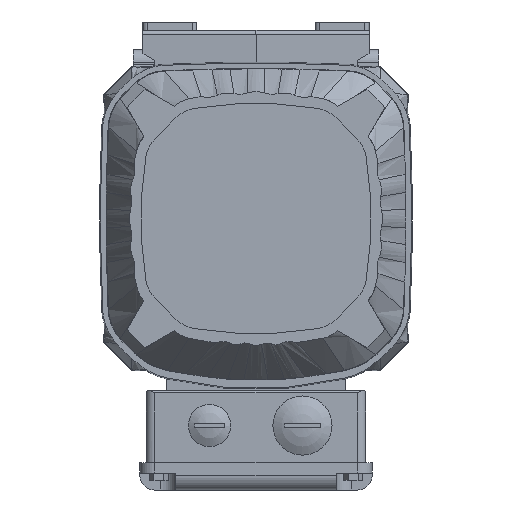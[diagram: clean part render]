
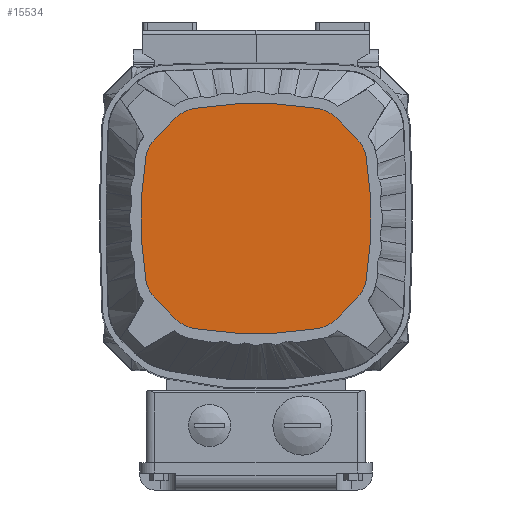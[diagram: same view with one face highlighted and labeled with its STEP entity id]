
A CAD part, left-side view. The second image highlights one B-rep face of the part: STEP entity #15534.
In plain terms, the highlighted planar face has unit normal (-1, 0, 0).
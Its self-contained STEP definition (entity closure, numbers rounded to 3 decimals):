
#777=PLANE('',#16538);
#1279=FACE_OUTER_BOUND('',#2145,.T.);
#2145=EDGE_LOOP('',(#11303,#11304,#11305,#11306,#11307,#11308,#11309,#11310,
#11311,#11312,#11313,#11314,#11315,#11316,#11317,#11318));
#3168=LINE('',#23909,#4592);
#3169=LINE('',#23917,#4593);
#3170=LINE('',#23925,#4594);
#3171=LINE('',#23932,#4595);
#4592=VECTOR('',#18638,1.);
#4593=VECTOR('',#18645,1.);
#4594=VECTOR('',#18652,1.);
#4595=VECTOR('',#18659,1.);
#5800=CIRCLE('',#16337,179.5);
#5886=CIRCLE('',#16539,16.);
#5887=CIRCLE('',#16540,16.);
#5888=CIRCLE('',#16541,16.);
#5889=CIRCLE('',#16542,179.5);
#5890=CIRCLE('',#16543,16.);
#5891=CIRCLE('',#16544,16.);
#5892=CIRCLE('',#16545,179.5);
#5893=CIRCLE('',#16546,16.);
#5894=CIRCLE('',#16547,16.);
#5895=CIRCLE('',#16548,179.5);
#5896=CIRCLE('',#16549,16.);
#6635=VERTEX_POINT('',#23129);
#6636=VERTEX_POINT('',#23130);
#6860=VERTEX_POINT('',#23904);
#6861=VERTEX_POINT('',#23906);
#6862=VERTEX_POINT('',#23908);
#6863=VERTEX_POINT('',#23910);
#6864=VERTEX_POINT('',#23912);
#6865=VERTEX_POINT('',#23914);
#6866=VERTEX_POINT('',#23916);
#6867=VERTEX_POINT('',#23918);
#6868=VERTEX_POINT('',#23920);
#6869=VERTEX_POINT('',#23922);
#6870=VERTEX_POINT('',#23924);
#6871=VERTEX_POINT('',#23926);
#6872=VERTEX_POINT('',#23928);
#6873=VERTEX_POINT('',#23930);
#8249=EDGE_CURVE('',#6635,#6636,#5800,.T.);
#8588=EDGE_CURVE('',#6860,#6635,#5886,.T.);
#8589=EDGE_CURVE('',#6636,#6861,#5887,.T.);
#8590=EDGE_CURVE('',#6861,#6862,#3168,.T.);
#8591=EDGE_CURVE('',#6862,#6863,#5888,.T.);
#8592=EDGE_CURVE('',#6863,#6864,#5889,.T.);
#8593=EDGE_CURVE('',#6864,#6865,#5890,.T.);
#8594=EDGE_CURVE('',#6865,#6866,#3169,.T.);
#8595=EDGE_CURVE('',#6866,#6867,#5891,.T.);
#8596=EDGE_CURVE('',#6867,#6868,#5892,.T.);
#8597=EDGE_CURVE('',#6868,#6869,#5893,.T.);
#8598=EDGE_CURVE('',#6869,#6870,#3170,.T.);
#8599=EDGE_CURVE('',#6870,#6871,#5894,.T.);
#8600=EDGE_CURVE('',#6871,#6872,#5895,.T.);
#8601=EDGE_CURVE('',#6872,#6873,#5896,.T.);
#8602=EDGE_CURVE('',#6873,#6860,#3171,.T.);
#11303=ORIENTED_EDGE('',*,*,#8588,.T.);
#11304=ORIENTED_EDGE('',*,*,#8249,.T.);
#11305=ORIENTED_EDGE('',*,*,#8589,.T.);
#11306=ORIENTED_EDGE('',*,*,#8590,.T.);
#11307=ORIENTED_EDGE('',*,*,#8591,.T.);
#11308=ORIENTED_EDGE('',*,*,#8592,.T.);
#11309=ORIENTED_EDGE('',*,*,#8593,.T.);
#11310=ORIENTED_EDGE('',*,*,#8594,.T.);
#11311=ORIENTED_EDGE('',*,*,#8595,.T.);
#11312=ORIENTED_EDGE('',*,*,#8596,.T.);
#11313=ORIENTED_EDGE('',*,*,#8597,.T.);
#11314=ORIENTED_EDGE('',*,*,#8598,.T.);
#11315=ORIENTED_EDGE('',*,*,#8599,.T.);
#11316=ORIENTED_EDGE('',*,*,#8600,.T.);
#11317=ORIENTED_EDGE('',*,*,#8601,.T.);
#11318=ORIENTED_EDGE('',*,*,#8602,.T.);
#15534=ADVANCED_FACE('',(#1279),#777,.T.);
#16337=AXIS2_PLACEMENT_3D('',#23131,#18002,#18003);
#16538=AXIS2_PLACEMENT_3D('',#23903,#18632,#18633);
#16539=AXIS2_PLACEMENT_3D('',#23905,#18634,#18635);
#16540=AXIS2_PLACEMENT_3D('',#23907,#18636,#18637);
#16541=AXIS2_PLACEMENT_3D('',#23911,#18639,#18640);
#16542=AXIS2_PLACEMENT_3D('',#23913,#18641,#18642);
#16543=AXIS2_PLACEMENT_3D('',#23915,#18643,#18644);
#16544=AXIS2_PLACEMENT_3D('',#23919,#18646,#18647);
#16545=AXIS2_PLACEMENT_3D('',#23921,#18648,#18649);
#16546=AXIS2_PLACEMENT_3D('',#23923,#18650,#18651);
#16547=AXIS2_PLACEMENT_3D('',#23927,#18653,#18654);
#16548=AXIS2_PLACEMENT_3D('',#23929,#18655,#18656);
#16549=AXIS2_PLACEMENT_3D('',#23931,#18657,#18658);
#18002=DIRECTION('center_axis',(-1.,0.,0.));
#18003=DIRECTION('ref_axis',(0.,0.,-1.));
#18632=DIRECTION('center_axis',(-1.,0.,0.));
#18633=DIRECTION('ref_axis',(0.,0.,-1.));
#18634=DIRECTION('center_axis',(-1.,0.,0.));
#18635=DIRECTION('ref_axis',(0.,0.,-1.));
#18636=DIRECTION('center_axis',(-1.,0.,0.));
#18637=DIRECTION('ref_axis',(0.,0.,-1.));
#18638=DIRECTION('',(0.,0.707,-0.707));
#18639=DIRECTION('center_axis',(-1.,0.,0.));
#18640=DIRECTION('ref_axis',(0.,0.,-1.));
#18641=DIRECTION('center_axis',(-1.,0.,0.));
#18642=DIRECTION('ref_axis',(0.,0.,-1.));
#18643=DIRECTION('center_axis',(-1.,0.,0.));
#18644=DIRECTION('ref_axis',(0.,0.,-1.));
#18645=DIRECTION('',(0.,-0.707,-0.707));
#18646=DIRECTION('center_axis',(-1.,0.,0.));
#18647=DIRECTION('ref_axis',(0.,0.,-1.));
#18648=DIRECTION('center_axis',(-1.,0.,0.));
#18649=DIRECTION('ref_axis',(0.,0.,-1.));
#18650=DIRECTION('center_axis',(-1.,0.,0.));
#18651=DIRECTION('ref_axis',(0.,0.,-1.));
#18652=DIRECTION('',(0.,-0.707,0.707));
#18653=DIRECTION('center_axis',(-1.,0.,0.));
#18654=DIRECTION('ref_axis',(0.,0.,-1.));
#18655=DIRECTION('center_axis',(-1.,0.,0.));
#18656=DIRECTION('ref_axis',(0.,0.,-1.));
#18657=DIRECTION('center_axis',(-1.,0.,0.));
#18658=DIRECTION('ref_axis',(0.,0.,-1.));
#18659=DIRECTION('',(0.,0.707,0.707));
#23129=CARTESIAN_POINT('',(-303.,-29.217,22.106));
#23130=CARTESIAN_POINT('',(-303.,29.217,22.106));
#23131=CARTESIAN_POINT('Origin',(-303.,0.,-155.));
#23903=CARTESIAN_POINT('Origin',(-303.,-26.613,6.32));
#23904=CARTESIAN_POINT('',(-303.,-37.927,17.633));
#23905=CARTESIAN_POINT('Origin',(-303.,-26.613,6.32));
#23906=CARTESIAN_POINT('',(-303.,37.927,17.633));
#23907=CARTESIAN_POINT('Origin',(-303.,26.613,6.32));
#23908=CARTESIAN_POINT('',(-303.,47.633,7.927));
#23909=CARTESIAN_POINT('',(-303.,24.62,30.94));
#23910=CARTESIAN_POINT('',(-303.,52.106,-0.783));
#23911=CARTESIAN_POINT('Origin',(-303.,36.32,-3.387));
#23912=CARTESIAN_POINT('',(-303.,52.106,-59.217));
#23913=CARTESIAN_POINT('Origin',(-303.,-125.,-30.));
#23914=CARTESIAN_POINT('',(-303.,47.633,-67.927));
#23915=CARTESIAN_POINT('Origin',(-303.,36.32,-56.613));
#23916=CARTESIAN_POINT('',(-303.,37.927,-77.633));
#23917=CARTESIAN_POINT('',(-303.,47.633,-67.927));
#23918=CARTESIAN_POINT('',(-303.,29.217,-82.106));
#23919=CARTESIAN_POINT('Origin',(-303.,26.613,-66.32));
#23920=CARTESIAN_POINT('',(-303.,-29.217,-82.106));
#23921=CARTESIAN_POINT('Origin',(-303.,0.,95.));
#23922=CARTESIAN_POINT('',(-303.,-37.927,-77.633));
#23923=CARTESIAN_POINT('Origin',(-303.,-26.613,-66.32));
#23924=CARTESIAN_POINT('',(-303.,-47.633,-67.927));
#23925=CARTESIAN_POINT('',(-303.,-56.086,-59.473));
#23926=CARTESIAN_POINT('',(-303.,-52.106,-59.217));
#23927=CARTESIAN_POINT('Origin',(-303.,-36.32,-56.613));
#23928=CARTESIAN_POINT('',(-303.,-52.106,-0.783));
#23929=CARTESIAN_POINT('Origin',(-303.,125.,-30.));
#23930=CARTESIAN_POINT('',(-303.,-47.633,7.927));
#23931=CARTESIAN_POINT('Origin',(-303.,-36.32,-3.387));
#23932=CARTESIAN_POINT('',(-303.,-42.78,12.78));
